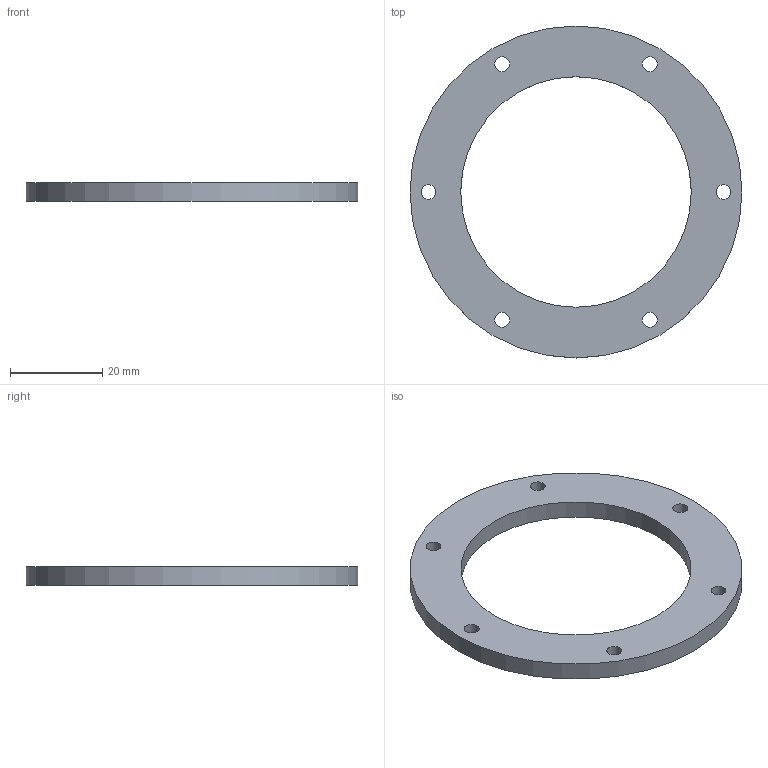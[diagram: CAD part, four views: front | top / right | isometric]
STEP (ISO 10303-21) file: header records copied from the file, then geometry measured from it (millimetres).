
FILE_DESCRIPTION(('Open CASCADE Model'),'2;1');
FILE_NAME('Open CASCADE Shape Model','2026-11-05T01:47:42',('Author'),( 'Open CASCADE'),'Open CASCADE STEP processor 7.8','Open CASCADE 7.8' ,'Unknown');
FILE_SCHEMA(('AUTOMOTIVE_DESIGN { 1 0 10303 214 1 1 1 1 }'));
Length unit declared in the file: millimetre
Products named in the file (1): Open CASCADE STEP translator 7.8 9
Bounding box: 72 x 72 x 4 mm (x, y, z)
Volume: 8239 mm3; surface area: 5893.9 mm2
Topology: 1 solids, 1 shells, 10 faces, 24 edges, 16 vertices
Faces by surface type: cylinder 8, plane 2
Full cylindrical faces by diameter (mm): 3.2 x6, 50 x1, 72 x1
Entity records: 660 total; most frequent: CARTESIAN_POINT 111, DIRECTION 108, ORIENTED_EDGE 48, PCURVE 48, DEFINITIONAL_REPRESENTATION 48, LINE 40, VECTOR 40, CIRCLE 30
